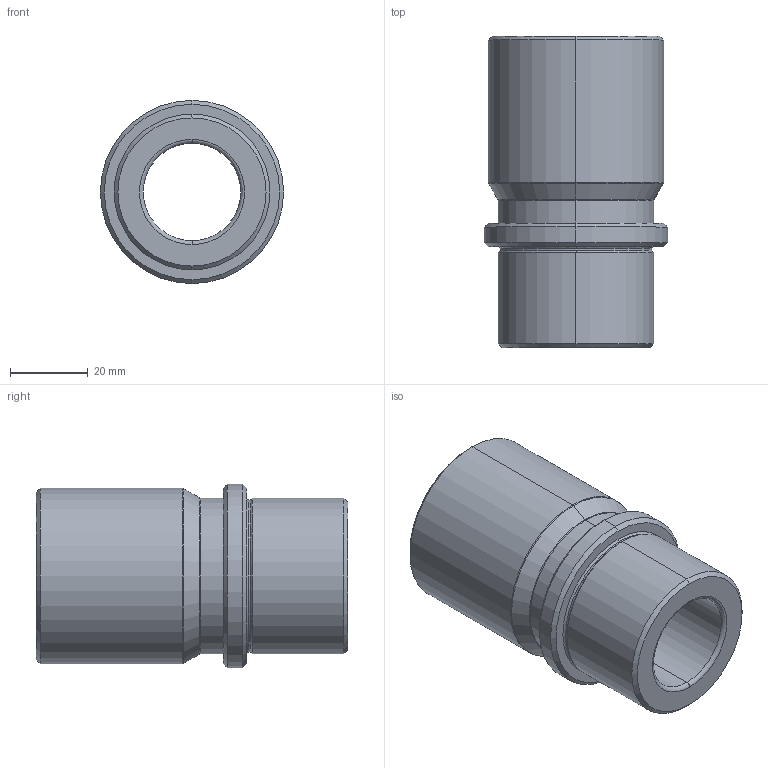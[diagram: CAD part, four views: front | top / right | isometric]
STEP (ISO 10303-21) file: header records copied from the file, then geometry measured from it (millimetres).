
FILE_DESCRIPTION( ( 'STEP AP203' ), '1' );
FILE_NAME( 'D:/Delta 3 D/D32/D32 - 25x26.step', '2002-12-31T23:34:15', ( ' ' ), ( ' ' ), 'XStep 1.0', ' ', ' ' );
FILE_SCHEMA( ( 'CONFIG_CONTROL_DESIGN' ) );
Length unit declared in the file: metre
Products named in the file (1): 1
Bounding box: 47 x 80 x 47 mm (x, y, z)
Volume: 77022.2 mm3; surface area: 19669.6 mm2
Topology: 1 solids, 1 shells, 38 faces, 76 edges, 42 vertices
Faces by surface type: revolution 22, bspline 16
Entity records: 1199 total; most frequent: CARTESIAN_POINT 429, ORIENTED_EDGE 152, DIRECTION 130, EDGE_CURVE 76, AXIS2_PLACEMENT_3D 43, EDGE_LOOP 42, VERTEX_POINT 42, CIRCLE 42
